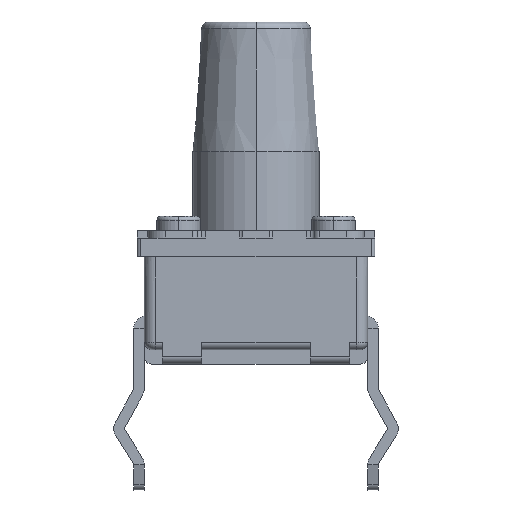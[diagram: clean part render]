
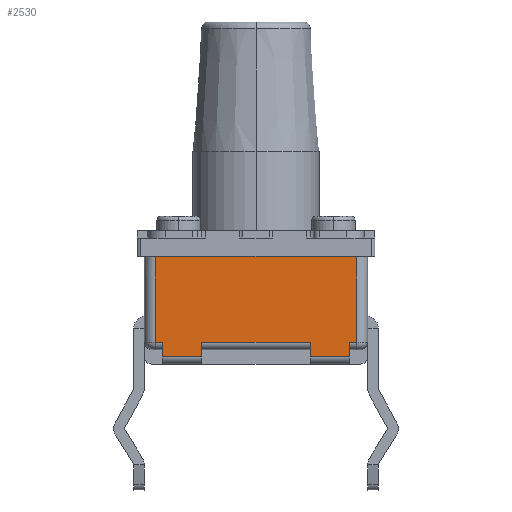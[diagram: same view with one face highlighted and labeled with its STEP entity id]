
A CAD part, front view. The second image highlights one B-rep face of the part: STEP entity #2530.
In plain terms, the highlighted planar face has unit normal (0, -1, 0) as drawn and (0, 0, 1) by its records, which use the part's own axes.
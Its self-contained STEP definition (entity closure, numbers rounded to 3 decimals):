
#2530 = ADVANCED_FACE ( 'NONE', ( #10456 ), #10486, .F. ) ;
#2531 = EDGE_LOOP ( 'NONE', ( #2532, #2596, #2599, #2602, #2604, #2605, #2606, #2579, #2582, #2585, #2588, #2591 ) ) ;
#2532 = ORIENTED_EDGE ( 'NONE', *, *, #2593, .T. ) ;
#2579 = ORIENTED_EDGE ( 'NONE', *, *, #2580, .T. ) ;
#2580 = EDGE_CURVE ( 'NONE', #15326, #2581, #10611, .T. ) ;
#2581 = VERTEX_POINT ( 'NONE', #10607 ) ;
#2582 = ORIENTED_EDGE ( 'NONE', *, *, #2583, .T. ) ;
#2583 = EDGE_CURVE ( 'NONE', #2581, #2584, #10606, .T. ) ;
#2584 = VERTEX_POINT ( 'NONE', #10602 ) ;
#2585 = ORIENTED_EDGE ( 'NONE', *, *, #2586, .T. ) ;
#2586 = EDGE_CURVE ( 'NONE', #2584, #2587, #10601, .T. ) ;
#2587 = VERTEX_POINT ( 'NONE', #10651 ) ;
#2588 = ORIENTED_EDGE ( 'NONE', *, *, #2589, .F. ) ;
#2589 = EDGE_CURVE ( 'NONE', #2590, #2587, #10650, .T. ) ;
#2590 = VERTEX_POINT ( 'NONE', #10646 ) ;
#2591 = ORIENTED_EDGE ( 'NONE', *, *, #2592, .F. ) ;
#2592 = EDGE_CURVE ( 'NONE', #2594, #2590, #10645, .T. ) ;
#2593 = EDGE_CURVE ( 'NONE', #2594, #2595, #10641, .T. ) ;
#2594 = VERTEX_POINT ( 'NONE', #10637 ) ;
#2595 = VERTEX_POINT ( 'NONE', #10636 ) ;
#2596 = ORIENTED_EDGE ( 'NONE', *, *, #2597, .F. ) ;
#2597 = EDGE_CURVE ( 'NONE', #2598, #2595, #10635, .T. ) ;
#2598 = VERTEX_POINT ( 'NONE', #10631 ) ;
#2599 = ORIENTED_EDGE ( 'NONE', *, *, #2600, .F. ) ;
#2600 = EDGE_CURVE ( 'NONE', #2601, #2598, #10630, .T. ) ;
#2601 = VERTEX_POINT ( 'NONE', #10626 ) ;
#2602 = ORIENTED_EDGE ( 'NONE', *, *, #2603, .F. ) ;
#2603 = EDGE_CURVE ( 'NONE', #15204, #2601, #10625, .T. ) ;
#2604 = ORIENTED_EDGE ( 'NONE', *, *, #15290, .F. ) ;
#2605 = ORIENTED_EDGE ( 'NONE', *, *, #15212, .F. ) ;
#2606 = ORIENTED_EDGE ( 'NONE', *, *, #15324, .T. ) ;
#10456 = FACE_OUTER_BOUND ( 'NONE', #2531, .T. ) ;
#10482 = DIRECTION ( 'NONE',  ( 1., 0., 0. ) ) ;
#10483 = DIRECTION ( 'NONE',  ( 0., 0., -1. ) ) ;
#10484 = CARTESIAN_POINT ( 'NONE',  ( 0., 3.3, 3.1 ) ) ;
#10485 = AXIS2_PLACEMENT_3D ( 'NONE', #10484, #10483, #10482 ) ;
#10486 = PLANE ( 'NONE',  #10485 ) ;
#10598 = DIRECTION ( 'NONE',  ( 1., 0., 0. ) ) ;
#10599 = VECTOR ( 'NONE', #10598, 1000. ) ;
#10600 = CARTESIAN_POINT ( 'NONE',  ( 0., 0.2, 3.1 ) ) ;
#10601 = LINE ( 'NONE', #10600, #10599 ) ;
#10602 = CARTESIAN_POINT ( 'NONE',  ( -2.6, 0.2, 3.1 ) ) ;
#10603 = DIRECTION ( 'NONE',  ( 0., -1., 0. ) ) ;
#10604 = VECTOR ( 'NONE', #10603, 1000. ) ;
#10605 = CARTESIAN_POINT ( 'NONE',  ( -2.6, 0.4, 3.1 ) ) ;
#10606 = LINE ( 'NONE', #10605, #10604 ) ;
#10607 = CARTESIAN_POINT ( 'NONE',  ( -2.6, 0.6, 3.1 ) ) ;
#10608 = DIRECTION ( 'NONE',  ( 1., 0., 0. ) ) ;
#10609 = VECTOR ( 'NONE', #10608, 1000. ) ;
#10610 = CARTESIAN_POINT ( 'NONE',  ( 0., 0.6, 3.1 ) ) ;
#10611 = LINE ( 'NONE', #10610, #10609 ) ;
#10622 = DIRECTION ( 'NONE',  ( -1., 0., 0. ) ) ;
#10623 = VECTOR ( 'NONE', #10622, 1000. ) ;
#10624 = CARTESIAN_POINT ( 'NONE',  ( 0., 0.6, 3.1 ) ) ;
#10625 = LINE ( 'NONE', #10624, #10623 ) ;
#10626 = CARTESIAN_POINT ( 'NONE',  ( 2.6, 0.6, 3.1 ) ) ;
#10627 = DIRECTION ( 'NONE',  ( 0., -1., 0. ) ) ;
#10628 = VECTOR ( 'NONE', #10627, 1000. ) ;
#10629 = CARTESIAN_POINT ( 'NONE',  ( 2.6, 0.4, 3.1 ) ) ;
#10630 = LINE ( 'NONE', #10629, #10628 ) ;
#10631 = CARTESIAN_POINT ( 'NONE',  ( 2.6, 0.2, 3.1 ) ) ;
#10632 = DIRECTION ( 'NONE',  ( -1., 0., 0. ) ) ;
#10633 = VECTOR ( 'NONE', #10632, 1000. ) ;
#10634 = CARTESIAN_POINT ( 'NONE',  ( 0., 0.2, 3.1 ) ) ;
#10635 = LINE ( 'NONE', #10634, #10633 ) ;
#10636 = CARTESIAN_POINT ( 'NONE',  ( 1.5, 0.2, 3.1 ) ) ;
#10637 = CARTESIAN_POINT ( 'NONE',  ( 1.5, 0.6, 3.1 ) ) ;
#10638 = DIRECTION ( 'NONE',  ( 0., -1., 0. ) ) ;
#10639 = VECTOR ( 'NONE', #10638, 1000. ) ;
#10640 = CARTESIAN_POINT ( 'NONE',  ( 1.5, 0.4, 3.1 ) ) ;
#10641 = LINE ( 'NONE', #10640, #10639 ) ;
#10642 = DIRECTION ( 'NONE',  ( -1., 0., 0. ) ) ;
#10643 = VECTOR ( 'NONE', #10642, 1000. ) ;
#10644 = CARTESIAN_POINT ( 'NONE',  ( 0., 0.6, 3.1 ) ) ;
#10645 = LINE ( 'NONE', #10644, #10643 ) ;
#10646 = CARTESIAN_POINT ( 'NONE',  ( -1.5, 0.6, 3.1 ) ) ;
#10647 = DIRECTION ( 'NONE',  ( 0., -1., 0. ) ) ;
#10648 = VECTOR ( 'NONE', #10647, 1000. ) ;
#10649 = CARTESIAN_POINT ( 'NONE',  ( -1.5, 0.4, 3.1 ) ) ;
#10650 = LINE ( 'NONE', #10649, #10648 ) ;
#10651 = CARTESIAN_POINT ( 'NONE',  ( -1.5, 0.2, 3.1 ) ) ;
#11416 = CARTESIAN_POINT ( 'NONE',  ( 2.8, 0.6, 3.1 ) ) ;
#11464 = DIRECTION ( 'NONE',  ( 1., 0., 0. ) ) ;
#11465 = VECTOR ( 'NONE', #11464, 1000. ) ;
#11466 = CARTESIAN_POINT ( 'NONE',  ( 0., 3.2, 3.1 ) ) ;
#11467 = LINE ( 'NONE', #11466, #11465 ) ;
#11483 = CARTESIAN_POINT ( 'NONE',  ( -2.8, 3.2, 3.1 ) ) ;
#11530 = CARTESIAN_POINT ( 'NONE',  ( 2.8, 3.2, 3.1 ) ) ;
#11697 = DIRECTION ( 'NONE',  ( 0., -1., 0. ) ) ;
#11698 = VECTOR ( 'NONE', #11697, 1000. ) ;
#11699 = CARTESIAN_POINT ( 'NONE',  ( 2.8, 3.3, 3.1 ) ) ;
#11705 = LINE ( 'NONE', #11699, #11698 ) ;
#11790 = DIRECTION ( 'NONE',  ( 0., -1., 0. ) ) ;
#11801 = VECTOR ( 'NONE', #11790, 1000. ) ;
#11802 = CARTESIAN_POINT ( 'NONE',  ( -2.8, 3.3, 3.1 ) ) ;
#11803 = LINE ( 'NONE', #11802, #11801 ) ;
#11824 = CARTESIAN_POINT ( 'NONE',  ( -2.8, 0.6, 3.1 ) ) ;
#15204 = VERTEX_POINT ( 'NONE', #11416 ) ;
#15212 = EDGE_CURVE ( 'NONE', #15223, #15227, #11467, .T. ) ;
#15223 = VERTEX_POINT ( 'NONE', #11483 ) ;
#15227 = VERTEX_POINT ( 'NONE', #11530 ) ;
#15290 = EDGE_CURVE ( 'NONE', #15227, #15204, #11705, .T. ) ;
#15324 = EDGE_CURVE ( 'NONE', #15223, #15326, #11803, .T. ) ;
#15326 = VERTEX_POINT ( 'NONE', #11824 ) ;
